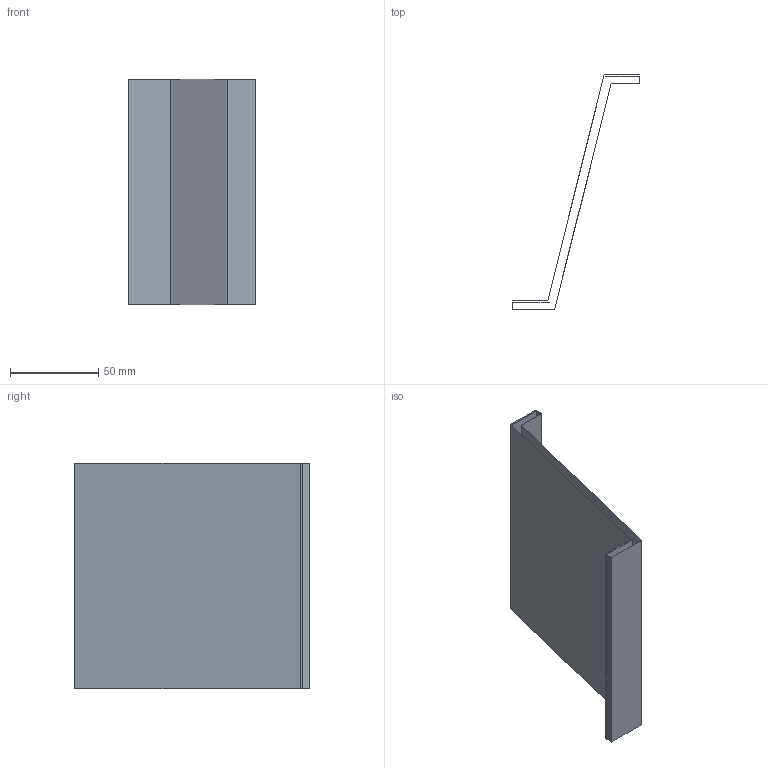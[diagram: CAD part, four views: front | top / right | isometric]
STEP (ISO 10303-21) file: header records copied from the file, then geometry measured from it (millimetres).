
FILE_DESCRIPTION(('CATIA V5 STEP Exchange'),'2;1');
FILE_NAME('C:\_Andres\UNIVERSIDAD\IQS\ASIGNATURAS\DAO\EXF\EXF-16172c\2inicio\Ribera_Armengol_Ej06_v28.stp','2017-03-05T21:01:28+00:00',('none'),('none'),'CATIA Version 5-6 Release 2014 SP1 HF18','CATIA V5 STEP AP203','none');
FILE_SCHEMA(('CONFIG_CONTROL_DESIGN'));
Length unit declared in the file: millimetre
Products named in the file (1): Ribera_Armengol_Ej06_v28
Bounding box: 72 x 133 x 128 mm (x, y, z)
Surface area: 50160.5 mm2 (no closed solid volume)
Topology: 0 solids, 2 shells, 10 faces, 42 edges, 36 vertices
Faces by surface type: plane 10
Entity records: 461 total; most frequent: CARTESIAN_POINT 100, DIRECTION 59, ORIENTED_EDGE 40, VECTOR 39, LINE 39, EDGE_CURVE 32, VERTEX_POINT 24, AXIS2_PLACEMENT_3D 11
